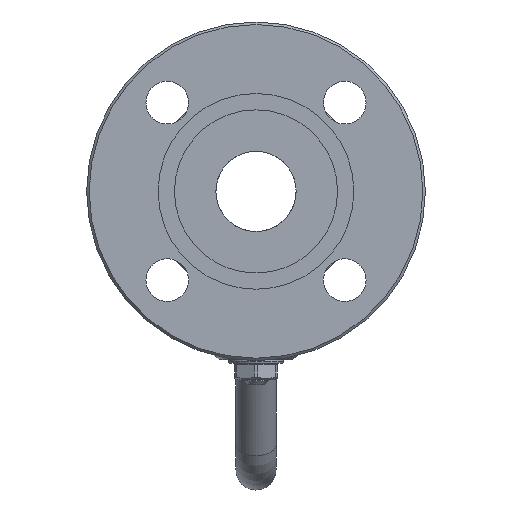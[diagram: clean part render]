
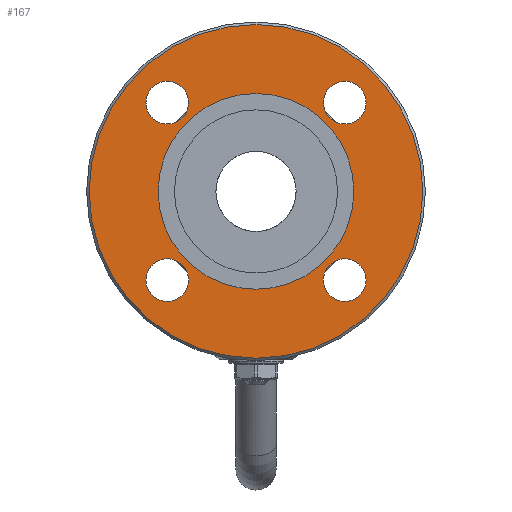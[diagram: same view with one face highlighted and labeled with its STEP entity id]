
A CAD part, left-side view. The second image highlights one B-rep face of the part: STEP entity #167.
In plain terms, the highlighted planar face has unit normal (-1, 0, 0).
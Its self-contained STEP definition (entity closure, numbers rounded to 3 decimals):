
#167=ADVANCED_FACE('',(#1396,#1398,#1400,#1402,#1404,#1406),#1408,.T.);
#1396=FACE_BOUND('',#1397,.T.);
#1397=EDGE_LOOP('',(#2315));
#1398=FACE_BOUND('',#1399,.T.);
#1399=EDGE_LOOP('',(#2316));
#1400=FACE_BOUND('',#1401,.T.);
#1401=EDGE_LOOP('',(#2317));
#1402=FACE_BOUND('',#1403,.T.);
#1403=EDGE_LOOP('',(#2318));
#1404=FACE_BOUND('',#1405,.T.);
#1405=EDGE_LOOP('',(#2319));
#1406=FACE_OUTER_BOUND('',#1407,.T.);
#1407=EDGE_LOOP('',(#2320));
#1408=PLANE('',#1409);
#1409=AXIS2_PLACEMENT_3D('',#1410,#1411,#1412);
#1410=CARTESIAN_POINT('',(-67.,0.,0.));
#1411=DIRECTION('',(-1.,0.,0.));
#1412=DIRECTION('',(0.,-1.,0.));
#2315=ORIENTED_EDGE('',*,*,#3341,.T.);
#2316=ORIENTED_EDGE('',*,*,#3342,.T.);
#2317=ORIENTED_EDGE('',*,*,#3343,.T.);
#2318=ORIENTED_EDGE('',*,*,#3344,.T.);
#2319=ORIENTED_EDGE('',*,*,#3333,.T.);
#2320=ORIENTED_EDGE('',*,*,#3345,.T.);
#3333=EDGE_CURVE('',#3693,#3693,#3695,.T.);
#3341=EDGE_CURVE('',#3709,#3709,#3710,.T.);
#3342=EDGE_CURVE('',#3711,#3711,#3712,.T.);
#3343=EDGE_CURVE('',#3713,#3713,#3714,.T.);
#3344=EDGE_CURVE('',#3715,#3715,#3716,.T.);
#3345=EDGE_CURVE('',#3717,#3717,#3718,.T.);
#3693=VERTEX_POINT('',#4884);
#3695=CIRCLE('',#4888,39.);
#3709=VERTEX_POINT('',#4924);
#3710=CIRCLE('',#4925,8.5);
#3711=VERTEX_POINT('',#4929);
#3712=CIRCLE('',#4930,8.5);
#3713=VERTEX_POINT('',#4934);
#3714=CIRCLE('',#4935,8.5);
#3715=VERTEX_POINT('',#4939);
#3716=CIRCLE('',#4940,8.5);
#3717=VERTEX_POINT('',#4944);
#3718=CIRCLE('',#4945,66.5);
#4884=CARTESIAN_POINT('',(-67.,39.,0.));
#4888=AXIS2_PLACEMENT_3D('',#4889,#4890,#4891);
#4889=CARTESIAN_POINT('',(-67.,0.,0.));
#4890=DIRECTION('',(1.,0.,-0.));
#4891=DIRECTION('',(0.,1.,0.));
#4924=CARTESIAN_POINT('',(-67.,35.355,-43.855));
#4925=AXIS2_PLACEMENT_3D('',#4926,#4927,#4928);
#4926=CARTESIAN_POINT('',(-67.,35.355,-35.355));
#4927=DIRECTION('',(1.,0.,-0.));
#4928=DIRECTION('',(0.,0.,-1.));
#4929=CARTESIAN_POINT('',(-67.,43.855,35.355));
#4930=AXIS2_PLACEMENT_3D('',#4931,#4932,#4933);
#4931=CARTESIAN_POINT('',(-67.,35.355,35.355));
#4932=DIRECTION('',(1.,0.,-0.));
#4933=DIRECTION('',(0.,1.,0.));
#4934=CARTESIAN_POINT('',(-67.,-35.355,43.855));
#4935=AXIS2_PLACEMENT_3D('',#4936,#4937,#4938);
#4936=CARTESIAN_POINT('',(-67.,-35.355,35.355));
#4937=DIRECTION('',(1.,0.,-0.));
#4938=DIRECTION('',(0.,0.,1.));
#4939=CARTESIAN_POINT('',(-67.,-43.855,-35.355));
#4940=AXIS2_PLACEMENT_3D('',#4941,#4942,#4943);
#4941=CARTESIAN_POINT('',(-67.,-35.355,-35.355));
#4942=DIRECTION('',(1.,0.,-0.));
#4943=DIRECTION('',(0.,-1.,0.));
#4944=CARTESIAN_POINT('',(-67.,-66.5,0.));
#4945=AXIS2_PLACEMENT_3D('',#4946,#4947,#4948);
#4946=CARTESIAN_POINT('',(-67.,0.,0.));
#4947=DIRECTION('',(-1.,0.,0.));
#4948=DIRECTION('',(0.,-1.,0.));
